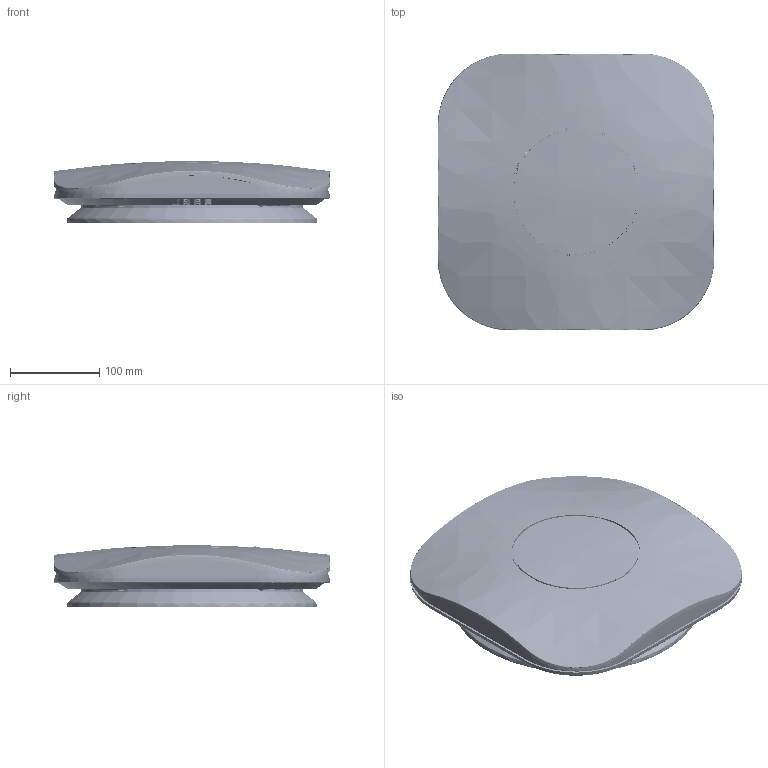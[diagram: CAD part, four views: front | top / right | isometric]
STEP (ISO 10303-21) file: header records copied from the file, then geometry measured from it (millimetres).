
FILE_DESCRIPTION((''),'2;1');
FILE_NAME('ASSY_ACCESS_POINT_20200805A_ASM','2024-03-30T17:14:56',('DELL'),(''),'CREO PARAMETRIC BY PTC INC, 2022073','CREO PARAMETRIC BY PTC INC, 2022073','');
FILE_SCHEMA(('CONFIG_CONTROL_DESIGN'));
Length unit declared in the file: millimetre
Products named in the file (41): BOTTOM; RJ45; RJ45__1_; ACTUATOR; ANTENNA; RJ45__2_; LED; ANTENNA__2_; LED__2_; LED__1_; RJ45__3_; PCB; ANTENNA__3_; ANTENNA__1_; BODY34; BODY35; BODY36; BODY37; BODY38; BODY39; PCBA_ASM; BTN; LIGHTPIPE; FOOT; BODY16; FOOT__2_; BODY18; BODY19; FOOT__1_; BODY21; TOP; FOOT__3_; FAN; WALL_MOUNT; BODY28; BODY29; BODY30; BODY31; BODY32; BODY33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
Assembly tree (42 placements, depth 3):
  ASSY_ACCESS_POINT_20200805A_ASM
    BOTTOM
    PCBA_ASM
      RJ45
      RJ45__1_
      ACTUATOR
      ANTENNA
      RJ45__2_
      LED
      ANTENNA__2_
      LED__2_
      LED__1_
      RJ45__3_
      PCB
      ANTENNA__3_
      ANTENNA__1_
      BODY34
      BODY35
      BODY36
      BODY37
      BODY38
      BODY39
    BTN
    LIGHTPIPE
    FOOT
    BODY16
    FOOT__2_
    BODY18
    BODY19
    FOOT__1_
    BODY21
    TOP
    FOOT__3_
    FAN
    WALL_MOUNT
    BODY28
    BODY29
    BODY30
    BODY31
    BODY32
    BODY33  x3
Bounding box: 310 x 310.01 x 69.2 mm (x, y, z)
Volume: 666651.9 mm3; surface area: 980217.8 mm2
Topology: 40 solids, 44 shells, 13453 faces, 38035 edges, 24964 vertices
Faces by surface type: plane 6985, cylinder 2777, bspline 1716, extrusion 760, cone 612, torus 462, sphere 141
Entity records: 551716 total; most frequent: CARTESIAN_POINT 224560, ORIENTED_EDGE 75064, DIRECTION 57115, EDGE_CURVE 37541, VERTEX_POINT 24728, VECTOR 20581, LINE 19821, AXIS2_PLACEMENT_3D 18267
